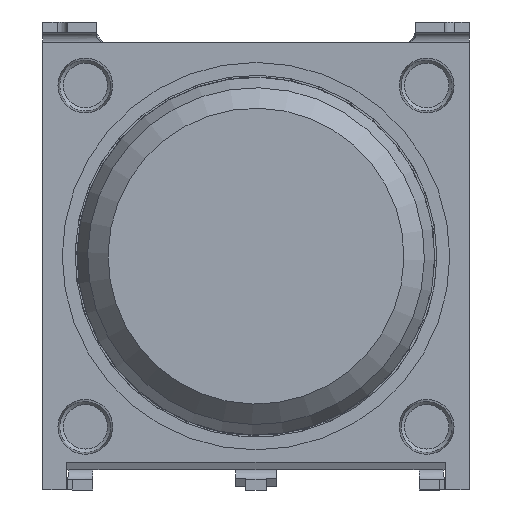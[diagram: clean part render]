
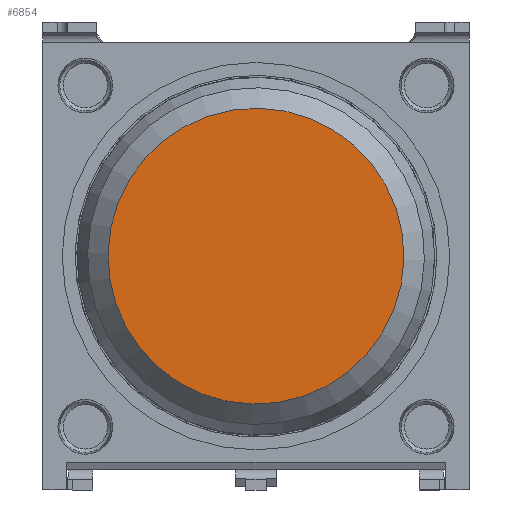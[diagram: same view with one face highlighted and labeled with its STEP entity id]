
A CAD part, left-side view. The second image highlights one B-rep face of the part: STEP entity #6854.
In plain terms, the highlighted planar face has unit normal (-1, 0, 0).
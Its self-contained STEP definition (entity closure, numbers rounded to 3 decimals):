
#256=CIRCLE('',#7255,4.334);
#1126=ORIENTED_EDGE('',*,*,#2202,.T.);
#2202=EDGE_CURVE('',#2775,#2775,#256,.T.);
#2775=VERTEX_POINT('',#9931);
#3930=EDGE_LOOP('',(#1126));
#4301=FACE_BOUND('',#3930,.T.);
#4598=PLANE('',#7256);
#6854=ADVANCED_FACE('',(#4301),#4598,.T.);
#7255=AXIS2_PLACEMENT_3D('',#9930,#8270,#8271);
#7256=AXIS2_PLACEMENT_3D('',#9932,#8272,#8273);
#8270=DIRECTION('',(-1.,0.,0.));
#8271=DIRECTION('',(0.,0.022,-1.));
#8272=DIRECTION('',(-1.,0.,0.));
#8273=DIRECTION('',(0.,0.022,-1.));
#9930=CARTESIAN_POINT('',(-9.477,-6.25,-6.25));
#9931=CARTESIAN_POINT('',(-9.477,-6.153,-10.583));
#9932=CARTESIAN_POINT('',(-9.477,-6.25,-6.25));
